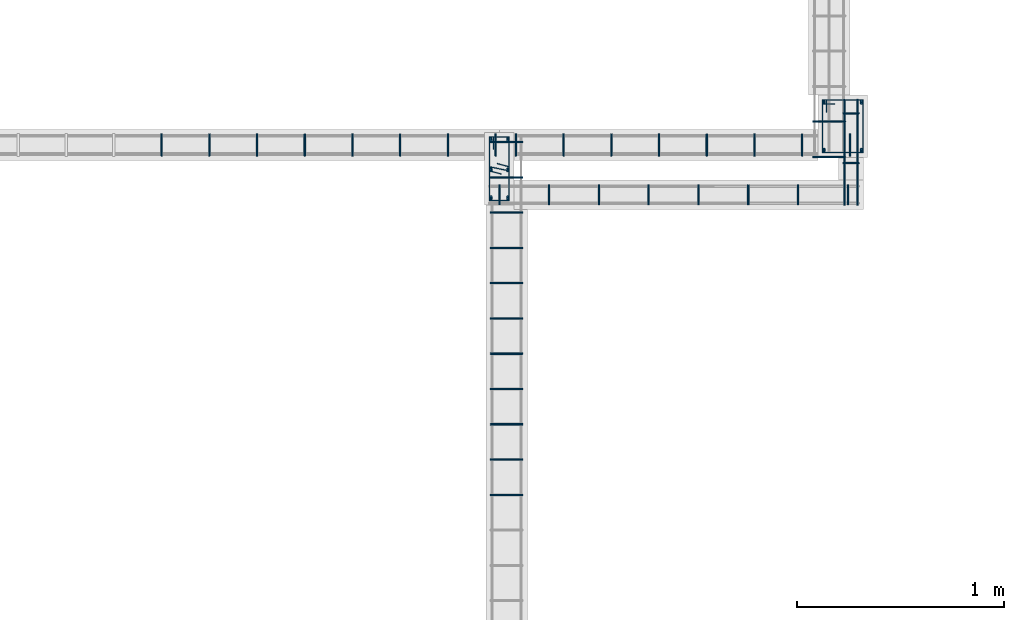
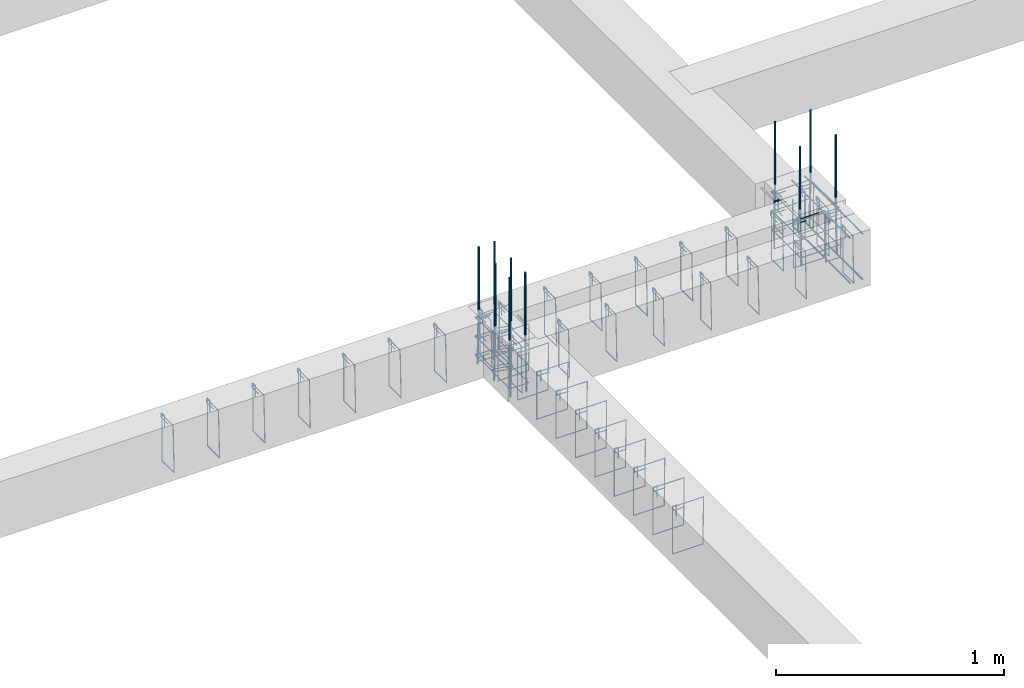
# One storey, part 83 of 150: 62 reinforcing bars.
"""IFC4 building model written with IfcOpenShell, lengths in centimetres."""

from ifc_helpers import new_model, entity, si_unit, derived_unit, frame, origin_with_axes, place, context, project, spatial, source, transform, mapped, element, save


model = new_model("IFC4")

# Units and contexts
model_context = context("Model", 3, precision=1e-05, world=origin_with_axes(), identifier="Body")
ifc_project = project(units=[si_unit("LENGTHUNIT", "METRE", prefix="CENTI"), si_unit("VOLUMEUNIT", "CUBIC_METRE"), si_unit("AREAUNIT", "SQUARE_METRE"), si_unit("POWERUNIT", "WATT"), si_unit("LUMINOUSFLUXUNIT", "LUMEN"), si_unit("ELECTRICCURRENTUNIT", "AMPERE"), si_unit("PRESSUREUNIT", "PASCAL", prefix="KILO"), si_unit("MASSUNIT", "GRAM", prefix="KILO"), si_unit("PLANEANGLEUNIT", "RADIAN"), derived_unit("VOLUMETRICFLOWRATEUNIT", [(si_unit("LENGTHUNIT", "METRE"), 3), (si_unit("TIMEUNIT", "SECOND"), -1)])], contexts=[model_context])

# Site, building, storey
site_placement = place(None, frame((-4000.0, 0.0, 0.0), z_axis=(0.0, 0.0, 1.0), x_axis=(1.0, 0.0, 0.0)))
site = spatial("IfcSite", under=ifc_project, at=site_placement, Name="PADRÃO")
building_placement = place(site_placement, frame((0.0, 0.0, -14.0)))
building = spatial("IfcBuilding", under=site, at=building_placement, Name="CRECHE PRÉ-ESCOLA TIPO 2")
placement = place(building_placement, origin_with_axes())
storey_placement = place(placement, frame((0.0, 0.0, 30.0), z_axis=(0.0, 0.0, 1.0), x_axis=(1.0, 0.0, 0.0)))
storey = spatial("IfcBuildingStorey", under=building, at=storey_placement, Name="VIGA BALDRAME", CompositionType="ELEMENT", Elevation=16.0)

# Reinforcing bars
shared_shape_1 = source(origin_with_axes(), model_context, "Body", "AdvancedSweptSolid", [
    entity("IfcSweptDiskSolid", entity("IfcCompositeCurve", [entity("IfcCompositeCurveSegment", "CONTINUOUS", True, entity("IfcPolyline", [entity("IfcCartesianPoint", [4.25, 21.75, 0.0]), entity("IfcCartesianPoint", [4.25, 27.75, 0.0])])), entity("IfcCompositeCurveSegment", "CONTINUOUS", True, entity("IfcPolyline", [entity("IfcCartesianPoint", [4.25, 27.75, 0.0]), entity("IfcCartesianPoint", [2.25, 27.75, 0.0])])), entity("IfcCompositeCurveSegment", "CONTINUOUS", True, entity("IfcPolyline", [entity("IfcCartesianPoint", [2.25, 27.75, 0.0]), entity("IfcCartesianPoint", [2.25, 2.25, 0.0])])), entity("IfcCompositeCurveSegment", "CONTINUOUS", True, entity("IfcPolyline", [entity("IfcCartesianPoint", [2.25, 2.25, 0.0]), entity("IfcCartesianPoint", [21.75, 2.25, 0.0])])), entity("IfcCompositeCurveSegment", "CONTINUOUS", True, entity("IfcPolyline", [entity("IfcCartesianPoint", [21.75, 2.25, 0.0]), entity("IfcCartesianPoint", [21.75, 27.75, -0.5])])), entity("IfcCompositeCurveSegment", "CONTINUOUS", True, entity("IfcPolyline", [entity("IfcCartesianPoint", [21.75, 27.75, -0.5]), entity("IfcCartesianPoint", [2.25, 27.75, -0.5])])), entity("IfcCompositeCurveSegment", "CONTINUOUS", True, entity("IfcPolyline", [entity("IfcCartesianPoint", [2.25, 27.75, -0.5]), entity("IfcCartesianPoint", [2.25, 25.75, -0.5])])), entity("IfcCompositeCurveSegment", "CONTINUOUS", True, entity("IfcPolyline", [entity("IfcCartesianPoint", [2.25, 25.75, -0.5]), entity("IfcCartesianPoint", [8.25, 25.75, -0.5])]))], False), 0.25),
])
for number, where, z_axis, x_axis, name in (
    (1, (3133.02, 2571.52, -25.0), (0.0, 0.0, 1.0), (1.0, 0.0, 0.0), "P74 - Estribo"),
    (2, (3133.02, 2571.52, -15.0), (0.0, 0.0, 1.0), (1.0, 0.0, 0.0), "P74 - Estribo"),
    (3, (3133.02, 2571.52, -5.0), (0.0, 0.0, 1.0), (1.0, 0.0, 0.0), "P74 - Estribo"),
):
    element("IfcReinforcingBar", number, at=place(storey_placement, frame(where, z_axis=z_axis, x_axis=x_axis)), inside=storey, Name=name, BarLength=0.0, CrossSectionArea=1.9634954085e-05, NominalDiameter=0.5, PredefinedType="MAIN", context=model_context, shape_type="MappedRepresentation", body=[
        mapped(shared_shape_1, transform((0.0, 0.0, 0.0), scale=1.0)),
    ])
shared_shape_2 = source(origin_with_axes(), model_context, "Body", "AdvancedSweptSolid", [
    entity("IfcSweptDiskSolid", entity("IfcCompositeCurve", [entity("IfcCompositeCurveSegment", "CONTINUOUS", True, entity("IfcPolyline", [entity("IfcCartesianPoint", [4.25, 26.75, 0.0]), entity("IfcCartesianPoint", [4.25, 32.75, 0.0])])), entity("IfcCompositeCurveSegment", "CONTINUOUS", True, entity("IfcPolyline", [entity("IfcCartesianPoint", [4.25, 32.75, 0.0]), entity("IfcCartesianPoint", [2.25, 32.75, 0.0])])), entity("IfcCompositeCurveSegment", "CONTINUOUS", True, entity("IfcPolyline", [entity("IfcCartesianPoint", [2.25, 32.75, 0.0]), entity("IfcCartesianPoint", [2.25, 2.25, 0.0])])), entity("IfcCompositeCurveSegment", "CONTINUOUS", True, entity("IfcPolyline", [entity("IfcCartesianPoint", [2.25, 2.25, 0.0]), entity("IfcCartesianPoint", [11.75, 2.25, 0.0])])), entity("IfcCompositeCurveSegment", "CONTINUOUS", True, entity("IfcPolyline", [entity("IfcCartesianPoint", [11.75, 2.25, 0.0]), entity("IfcCartesianPoint", [11.75, 32.75, -0.5])])), entity("IfcCompositeCurveSegment", "CONTINUOUS", True, entity("IfcPolyline", [entity("IfcCartesianPoint", [11.75, 32.75, -0.5]), entity("IfcCartesianPoint", [2.25, 32.75, -0.5])])), entity("IfcCompositeCurveSegment", "CONTINUOUS", True, entity("IfcPolyline", [entity("IfcCartesianPoint", [2.25, 32.75, -0.5]), entity("IfcCartesianPoint", [2.25, 30.75, -0.5])])), entity("IfcCompositeCurveSegment", "CONTINUOUS", True, entity("IfcPolyline", [entity("IfcCartesianPoint", [2.25, 30.75, -0.5]), entity("IfcCartesianPoint", [8.25, 30.75, -0.5])]))], False), 0.25),
])
for number, where, z_axis, x_axis, name in (
    (4, (2972.5, 2548.52, -25.0), (0.0, 0.0, 1.0), (1.0, 0.0, 0.0), "P73 - Estribo"),
    (5, (2972.5, 2548.52, -5.0), (0.0, 0.0, 1.0), (1.0, 0.0, 0.0), "P73 - Estribo"),
    (6, (2972.5, 2548.52, -15.0), (0.0, 0.0, 1.0), (1.0, 0.0, 0.0), "P73 - Estribo"),
):
    element("IfcReinforcingBar", number, at=place(storey_placement, frame(where, z_axis=z_axis, x_axis=x_axis)), inside=storey, Name=name, BarLength=0.0, CrossSectionArea=1.9634954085e-05, NominalDiameter=0.5, PredefinedType="MAIN", context=model_context, shape_type="MappedRepresentation", body=[
        mapped(shared_shape_2, transform((0.0, 0.0, 0.0), scale=1.0)),
    ])
shared_shape_3 = source(origin_with_axes(), model_context, "Body", "AdvancedSweptSolid", [
    entity("IfcSweptDiskSolid", entity("IfcCompositeCurve", [entity("IfcCompositeCurveSegment", "CONTINUOUS", True, entity("IfcPolyline", [entity("IfcCartesianPoint", [5.8862791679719, 20.0449050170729, 0.0]), entity("IfcCartesianPoint", [11.75, 18.5, 0.0])])), entity("IfcCompositeCurveSegment", "CONTINUOUS", True, entity("IfcPolyline", [entity("IfcCartesianPoint", [11.75, 18.5, 0.0]), entity("IfcCartesianPoint", [11.75, 16.5, 0.0])])), entity("IfcCompositeCurveSegment", "CONTINUOUS", True, entity("IfcPolyline", [entity("IfcCartesianPoint", [11.75, 16.5, 0.0]), entity("IfcCartesianPoint", [2.25, 18.5, 0.0])])), entity("IfcCompositeCurveSegment", "CONTINUOUS", True, entity("IfcPolyline", [entity("IfcCartesianPoint", [2.25, 18.5, 0.0]), entity("IfcCartesianPoint", [2.25, 16.5, 0.0])])), entity("IfcCompositeCurveSegment", "CONTINUOUS", True, entity("IfcPolyline", [entity("IfcCartesianPoint", [2.25, 16.5, 0.0]), entity("IfcCartesianPoint", [8.11372083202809, 14.9550949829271, 0.0])]))], False), 0.25),
])
for number, where, z_axis, x_axis, name in (
    (7, (2972.5, 2548.52, -14.5), (0.0, 0.0, 1.0), (1.0, 0.0, 0.0), "P73 - Grampo"),
    (8, (2972.5, 2548.52, -4.5), (0.0, 0.0, 1.0), (1.0, 0.0, 0.0), "P73 - Grampo"),
    (9, (2972.5, 2548.52, -24.5), (0.0, 0.0, 1.0), (1.0, 0.0, 0.0), "P73 - Grampo"),
):
    element("IfcReinforcingBar", number, at=place(storey_placement, frame(where, z_axis=z_axis, x_axis=x_axis)), inside=storey, Name=name, BarLength=0.0, CrossSectionArea=1.9634954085e-05, NominalDiameter=0.5, PredefinedType="MAIN", context=model_context, shape_type="MappedRepresentation", body=[
        mapped(shared_shape_3, transform((0.0, 0.0, 0.0), scale=1.0)),
    ])
shared_shape_4 = source(origin_with_axes(), model_context, "Body", "AdvancedSweptSolid", [
    entity("IfcSweptDiskSolid", entity("IfcCompositeCurve", [entity("IfcCompositeCurveSegment", "CONTINUOUS", True, entity("IfcPolyline", [entity("IfcCartesianPoint", [2.0, -6.0, 0.0]), entity("IfcCartesianPoint", [2.0, 0.0, 0.0])])), entity("IfcCompositeCurveSegment", "CONTINUOUS", True, entity("IfcPolyline", [entity("IfcCartesianPoint", [2.0, 0.0, 0.0]), entity("IfcCartesianPoint", [0.0, 0.0, 0.0])])), entity("IfcCompositeCurveSegment", "CONTINUOUS", True, entity("IfcPolyline", [entity("IfcCartesianPoint", [0.0, 0.0, 0.0]), entity("IfcCartesianPoint", [0.0, -25.5, 0.0])])), entity("IfcCompositeCurveSegment", "CONTINUOUS", True, entity("IfcPolyline", [entity("IfcCartesianPoint", [0.0, -25.5, 0.0]), entity("IfcCartesianPoint", [10.5, -25.5, 0.0])])), entity("IfcCompositeCurveSegment", "CONTINUOUS", True, entity("IfcPolyline", [entity("IfcCartesianPoint", [10.5, -25.5, 0.0]), entity("IfcCartesianPoint", [10.5, 0.0, 0.5])])), entity("IfcCompositeCurveSegment", "CONTINUOUS", True, entity("IfcPolyline", [entity("IfcCartesianPoint", [10.5, 0.0, 0.5]), entity("IfcCartesianPoint", [0.0, 0.0, 0.5])])), entity("IfcCompositeCurveSegment", "CONTINUOUS", True, entity("IfcPolyline", [entity("IfcCartesianPoint", [0.0, 0.0, 0.5]), entity("IfcCartesianPoint", [0.0, -2.0, 0.5])])), entity("IfcCompositeCurveSegment", "CONTINUOUS", True, entity("IfcPolyline", [entity("IfcCartesianPoint", [0.0, -2.0, 0.5]), entity("IfcCartesianPoint", [6.0, -2.0, 0.5])]))], False), 0.25),
])
for number, where, z_axis, x_axis, name in (
    (10, (2978.0, 2582.77, -2.25), (-1.0, 0.0, 0.0), (0.0, -1.0, 0.0), "V122 - Estribo"),
    (11, (2955.0, 2582.77, -2.25), (-1.0, 0.0, 0.0), (0.0, -1.0, 0.0), "V122 - Estribo"),
    (12, (2932.0, 2582.77, -2.25), (-1.0, 0.0, 0.0), (0.0, -1.0, 0.0), "V122 - Estribo"),
    (13, (2909.0, 2582.77, -2.25), (-1.0, 0.0, 0.0), (0.0, -1.0, 0.0), "V122 - Estribo"),
    (14, (2886.0, 2582.77, -2.25), (-1.0, 0.0, 0.0), (0.0, -1.0, 0.0), "V122 - Estribo"),
    (15, (2863.0, 2582.77, -2.25), (-1.0, 0.0, 0.0), (0.0, -1.0, 0.0), "V122 - Estribo"),
    (16, (2840.0, 2582.77, -2.25), (-1.0, 0.0, 0.0), (0.0, -1.0, 0.0), "V122 - Estribo"),
    (17, (2817.0, 2582.77, -2.25), (-1.0, 0.0, 0.0), (0.0, -1.0, 0.0), "V122 - Estribo"),
):
    element("IfcReinforcingBar", number, at=place(storey_placement, frame(where, z_axis=z_axis, x_axis=x_axis)), inside=storey, Name=name, BarLength=0.0, CrossSectionArea=1.9634954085e-05, NominalDiameter=0.5, PredefinedType="MAIN", context=model_context, shape_type="MappedRepresentation", body=[
        mapped(shared_shape_4, transform((0.0, 0.0, 0.0), scale=1.0)),
    ])
shared_shape_5 = source(origin_with_axes(), model_context, "Body", "AdvancedSweptSolid", [
    entity("IfcSweptDiskSolid", entity("IfcCompositeCurve", [entity("IfcCompositeCurveSegment", "CONTINUOUS", True, entity("IfcPolyline", [entity("IfcCartesianPoint", [2.0, -6.0, 0.0]), entity("IfcCartesianPoint", [2.0, 0.0, 0.0])])), entity("IfcCompositeCurveSegment", "CONTINUOUS", True, entity("IfcPolyline", [entity("IfcCartesianPoint", [2.0, 0.0, 0.0]), entity("IfcCartesianPoint", [0.0, 0.0, 0.0])])), entity("IfcCompositeCurveSegment", "CONTINUOUS", True, entity("IfcPolyline", [entity("IfcCartesianPoint", [0.0, 0.0, 0.0]), entity("IfcCartesianPoint", [0.0, -25.5, 0.0])])), entity("IfcCompositeCurveSegment", "CONTINUOUS", True, entity("IfcPolyline", [entity("IfcCartesianPoint", [0.0, -25.5, 0.0]), entity("IfcCartesianPoint", [10.5, -25.5, 0.0])])), entity("IfcCompositeCurveSegment", "CONTINUOUS", True, entity("IfcPolyline", [entity("IfcCartesianPoint", [10.5, -25.5, 0.0]), entity("IfcCartesianPoint", [10.5, 0.0, 0.5])])), entity("IfcCompositeCurveSegment", "CONTINUOUS", True, entity("IfcPolyline", [entity("IfcCartesianPoint", [10.5, 0.0, 0.5]), entity("IfcCartesianPoint", [0.0, 0.0, 0.5])])), entity("IfcCompositeCurveSegment", "CONTINUOUS", True, entity("IfcPolyline", [entity("IfcCartesianPoint", [0.0, 0.0, 0.5]), entity("IfcCartesianPoint", [0.0, -2.0, 0.5])])), entity("IfcCompositeCurveSegment", "CONTINUOUS", True, entity("IfcPolyline", [entity("IfcCartesianPoint", [0.0, -2.0, 0.5]), entity("IfcCartesianPoint", [6.0, -2.0, 0.5])]))], False), 0.25),
])
for number, where, z_axis, x_axis, name in (
    (18, (3148.76, 2582.77, -2.25), (-1.0, 0.0, 0.0), (0.0, -1.0, 0.0), "V122 - Estribo"),
    (19, (3125.76, 2582.77, -2.25), (-1.0, 0.0, 0.0), (0.0, -1.0, 0.0), "V122 - Estribo"),
    (20, (3102.76, 2582.77, -2.25), (-1.0, 0.0, 0.0), (0.0, -1.0, 0.0), "V122 - Estribo"),
    (21, (3079.76, 2582.77, -2.25), (-1.0, 0.0, 0.0), (0.0, -1.0, 0.0), "V122 - Estribo"),
    (22, (3056.76, 2582.77, -2.25), (-1.0, 0.0, 0.0), (0.0, -1.0, 0.0), "V122 - Estribo"),
    (23, (3033.76, 2582.77, -2.25), (-1.0, 0.0, 0.0), (0.0, -1.0, 0.0), "V122 - Estribo"),
    (24, (3010.76, 2582.77, -2.25), (-1.0, 0.0, 0.0), (0.0, -1.0, 0.0), "V122 - Estribo"),
    (25, (2987.76, 2582.77, -2.25), (-1.0, 0.0, 0.0), (0.0, -1.0, 0.0), "V122 - Estribo"),
):
    element("IfcReinforcingBar", number, at=place(storey_placement, frame(where, z_axis=z_axis, x_axis=x_axis)), inside=storey, Name=name, BarLength=0.0, CrossSectionArea=1.9634954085e-05, NominalDiameter=0.5, PredefinedType="MAIN", context=model_context, shape_type="MappedRepresentation", body=[
        mapped(shared_shape_5, transform((0.0, 0.0, 0.0), scale=1.0)),
    ])
shared_shape_6 = source(origin_with_axes(), model_context, "Body", "AdvancedSweptSolid", [
    entity("IfcSweptDiskSolid", entity("IfcCompositeCurve", [entity("IfcCompositeCurveSegment", "CONTINUOUS", True, entity("IfcPolyline", [entity("IfcCartesianPoint", [2.0, -6.0, 0.0]), entity("IfcCartesianPoint", [2.0, 0.0, 0.0])])), entity("IfcCompositeCurveSegment", "CONTINUOUS", True, entity("IfcPolyline", [entity("IfcCartesianPoint", [2.0, 0.0, 0.0]), entity("IfcCartesianPoint", [0.0, 0.0, 0.0])])), entity("IfcCompositeCurveSegment", "CONTINUOUS", True, entity("IfcPolyline", [entity("IfcCartesianPoint", [0.0, 0.0, 0.0]), entity("IfcCartesianPoint", [0.0, -25.5, 0.0])])), entity("IfcCompositeCurveSegment", "CONTINUOUS", True, entity("IfcPolyline", [entity("IfcCartesianPoint", [0.0, -25.5, 0.0]), entity("IfcCartesianPoint", [15.5, -25.5, 0.0])])), entity("IfcCompositeCurveSegment", "CONTINUOUS", True, entity("IfcPolyline", [entity("IfcCartesianPoint", [15.5, -25.5, 0.0]), entity("IfcCartesianPoint", [15.5, 0.0, 0.5])])), entity("IfcCompositeCurveSegment", "CONTINUOUS", True, entity("IfcPolyline", [entity("IfcCartesianPoint", [15.5, 0.0, 0.5]), entity("IfcCartesianPoint", [0.0, 0.0, 0.5])])), entity("IfcCompositeCurveSegment", "CONTINUOUS", True, entity("IfcPolyline", [entity("IfcCartesianPoint", [0.0, 0.0, 0.5]), entity("IfcCartesianPoint", [0.0, -2.0, 0.5])])), entity("IfcCompositeCurveSegment", "CONTINUOUS", True, entity("IfcPolyline", [entity("IfcCartesianPoint", [0.0, -2.0, 0.5]), entity("IfcCartesianPoint", [6.0, -2.0, 0.5])]))], False), 0.25),
])
for number, where, z_axis, x_axis, name in (
    (26, (2975.25, 2409.145, -2.25), (0.0, -1.0, 0.0), (1.0, 0.0, 0.0), "V212 - Estribo"),
    (27, (2975.25, 2426.145, -2.25), (0.0, -1.0, 0.0), (1.0, 0.0, 0.0), "V212 - Estribo"),
    (28, (2975.25, 2443.145, -2.25), (0.0, -1.0, 0.0), (1.0, 0.0, 0.0), "V212 - Estribo"),
    (29, (2975.25, 2460.145, -2.25), (0.0, -1.0, 0.0), (1.0, 0.0, 0.0), "V212 - Estribo"),
    (30, (2975.25, 2477.145, -2.25), (0.0, -1.0, 0.0), (1.0, 0.0, 0.0), "V212 - Estribo"),
    (31, (2975.25, 2494.145, -2.25), (0.0, -1.0, 0.0), (1.0, 0.0, 0.0), "V212 - Estribo"),
    (32, (2975.25, 2511.145, -2.25), (0.0, -1.0, 0.0), (1.0, 0.0, 0.0), "V212 - Estribo"),
    (33, (2975.25, 2528.145, -2.25), (0.0, -1.0, 0.0), (1.0, 0.0, 0.0), "V212 - Estribo"),
    (34, (2975.25, 2545.145, -2.25), (0.0, -1.0, 0.0), (1.0, 0.0, 0.0), "V212 - Estribo"),
    (35, (2975.25, 2562.145, -2.25), (0.0, -1.0, 0.0), (1.0, 0.0, 0.0), "V212 - Estribo"),
    (36, (2975.25, 2579.145, -2.25), (0.0, -1.0, 0.0), (1.0, 0.0, 0.0), "V212 - Estribo"),
):
    element("IfcReinforcingBar", number, at=place(storey_placement, frame(where, z_axis=z_axis, x_axis=x_axis)), inside=storey, Name=name, BarLength=0.0, CrossSectionArea=1.9634954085e-05, NominalDiameter=0.5, PredefinedType="MAIN", context=model_context, shape_type="MappedRepresentation", body=[
        mapped(shared_shape_6, transform((0.0, 0.0, 0.0), scale=1.0)),
    ])
shared_shape_7 = source(origin_with_axes(), model_context, "Body", "AdvancedSweptSolid", [
    entity("IfcSweptDiskSolid", entity("IfcCompositeCurve", [entity("IfcCompositeCurveSegment", "CONTINUOUS", True, entity("IfcPolyline", [entity("IfcCartesianPoint", [2.0, -6.0, 0.0]), entity("IfcCartesianPoint", [2.0, 0.0, 0.0])])), entity("IfcCompositeCurveSegment", "CONTINUOUS", True, entity("IfcPolyline", [entity("IfcCartesianPoint", [2.0, 0.0, 0.0]), entity("IfcCartesianPoint", [0.0, 0.0, 0.0])])), entity("IfcCompositeCurveSegment", "CONTINUOUS", True, entity("IfcPolyline", [entity("IfcCartesianPoint", [0.0, 0.0, 0.0]), entity("IfcCartesianPoint", [0.0, -25.5, 0.0])])), entity("IfcCompositeCurveSegment", "CONTINUOUS", True, entity("IfcPolyline", [entity("IfcCartesianPoint", [0.0, -25.5, 0.0]), entity("IfcCartesianPoint", [15.5, -25.5, 0.0])])), entity("IfcCompositeCurveSegment", "CONTINUOUS", True, entity("IfcPolyline", [entity("IfcCartesianPoint", [15.5, -25.5, 0.0]), entity("IfcCartesianPoint", [15.5, 0.0, 0.5])])), entity("IfcCompositeCurveSegment", "CONTINUOUS", True, entity("IfcPolyline", [entity("IfcCartesianPoint", [15.5, 0.0, 0.5]), entity("IfcCartesianPoint", [0.0, 0.0, 0.5])])), entity("IfcCompositeCurveSegment", "CONTINUOUS", True, entity("IfcPolyline", [entity("IfcCartesianPoint", [0.0, 0.0, 0.5]), entity("IfcCartesianPoint", [0.0, -2.0, 0.5])])), entity("IfcCompositeCurveSegment", "CONTINUOUS", True, entity("IfcPolyline", [entity("IfcCartesianPoint", [0.0, -2.0, 0.5]), entity("IfcCartesianPoint", [6.0, -2.0, 0.5])]))], False), 0.25),
])
for number, where, z_axis, x_axis, name in (
    (37, (3130.75, 2572.02, -2.25), (0.0, -1.0, 0.0), (1.0, 0.0, 0.0), "V219 - Estribo"),
    (38, (3130.75, 2589.02, -2.25), (0.0, -1.0, 0.0), (1.0, 0.0, 0.0), "V219 - Estribo"),
):
    element("IfcReinforcingBar", number, at=place(storey_placement, frame(where, z_axis=z_axis, x_axis=x_axis)), inside=storey, Name=name, BarLength=0.0, CrossSectionArea=1.9634954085e-05, NominalDiameter=0.5, PredefinedType="MAIN", context=model_context, shape_type="MappedRepresentation", body=[
        mapped(shared_shape_7, transform((0.0, 0.0, 0.0), scale=1.0)),
    ])
shared_shape_8 = source(origin_with_axes(), model_context, "Body", "AdvancedSweptSolid", [
    entity("IfcSweptDiskSolid", entity("IfcCompositeCurve", [entity("IfcCompositeCurveSegment", "CONTINUOUS", True, entity("IfcPolyline", [entity("IfcCartesianPoint", [2.0, -6.0, 0.0]), entity("IfcCartesianPoint", [2.0, 0.0, 0.0])])), entity("IfcCompositeCurveSegment", "CONTINUOUS", True, entity("IfcPolyline", [entity("IfcCartesianPoint", [2.0, 0.0, 0.0]), entity("IfcCartesianPoint", [0.0, 0.0, 0.0])])), entity("IfcCompositeCurveSegment", "CONTINUOUS", True, entity("IfcPolyline", [entity("IfcCartesianPoint", [0.0, 0.0, 0.0]), entity("IfcCartesianPoint", [0.0, -25.5, 0.0])])), entity("IfcCompositeCurveSegment", "CONTINUOUS", True, entity("IfcPolyline", [entity("IfcCartesianPoint", [0.0, -25.5, 0.0]), entity("IfcCartesianPoint", [7.5, -25.5, 0.0])])), entity("IfcCompositeCurveSegment", "CONTINUOUS", True, entity("IfcPolyline", [entity("IfcCartesianPoint", [7.5, -25.5, 0.0]), entity("IfcCartesianPoint", [7.5, 0.0, 0.5])])), entity("IfcCompositeCurveSegment", "CONTINUOUS", True, entity("IfcPolyline", [entity("IfcCartesianPoint", [7.5, 0.0, 0.5]), entity("IfcCartesianPoint", [0.0, 0.0, 0.5])])), entity("IfcCompositeCurveSegment", "CONTINUOUS", True, entity("IfcPolyline", [entity("IfcCartesianPoint", [0.0, 0.0, 0.5]), entity("IfcCartesianPoint", [0.0, -2.0, 0.5])])), entity("IfcCompositeCurveSegment", "CONTINUOUS", True, entity("IfcPolyline", [entity("IfcCartesianPoint", [0.0, -2.0, 0.5]), entity("IfcCartesianPoint", [6.0, -2.0, 0.5])]))], False), 0.25),
])
for number, where, z_axis, x_axis, name in (
    (39, (3145.27, 2569.02, -2.25), (0.0, -1.0, 0.0), (1.0, 0.0, 0.0), "V218 - Estribo"),
    (40, (3145.27, 2593.02, -2.25), (0.0, -1.0, 0.0), (1.0, 0.0, 0.0), "V218 - Estribo"),
):
    element("IfcReinforcingBar", number, at=place(storey_placement, frame(where, z_axis=z_axis, x_axis=x_axis)), inside=storey, Name=name, BarLength=0.0, CrossSectionArea=1.9634954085e-05, NominalDiameter=0.5, PredefinedType="MAIN", context=model_context, shape_type="MappedRepresentation", body=[
        mapped(shared_shape_8, transform((0.0, 0.0, 0.0), scale=1.0)),
    ])
shared_shape_9 = source(origin_with_axes(), model_context, "Body", "AdvancedSweptSolid", [
    entity("IfcSweptDiskSolid", entity("IfcCompositeCurve", [entity("IfcCompositeCurveSegment", "CONTINUOUS", True, entity("IfcPolyline", [entity("IfcCartesianPoint", [2.0, -6.0, 0.0]), entity("IfcCartesianPoint", [2.0, 0.0, 0.0])])), entity("IfcCompositeCurveSegment", "CONTINUOUS", True, entity("IfcPolyline", [entity("IfcCartesianPoint", [2.0, 0.0, 0.0]), entity("IfcCartesianPoint", [0.0, 0.0, 0.0])])), entity("IfcCompositeCurveSegment", "CONTINUOUS", True, entity("IfcPolyline", [entity("IfcCartesianPoint", [0.0, 0.0, 0.0]), entity("IfcCartesianPoint", [0.0, -25.5, 0.0])])), entity("IfcCompositeCurveSegment", "CONTINUOUS", True, entity("IfcPolyline", [entity("IfcCartesianPoint", [0.0, -25.5, 0.0]), entity("IfcCartesianPoint", [9.5, -25.5, 0.0])])), entity("IfcCompositeCurveSegment", "CONTINUOUS", True, entity("IfcPolyline", [entity("IfcCartesianPoint", [9.5, -25.5, 0.0]), entity("IfcCartesianPoint", [9.5, 0.0, 0.5])])), entity("IfcCompositeCurveSegment", "CONTINUOUS", True, entity("IfcPolyline", [entity("IfcCartesianPoint", [9.5, 0.0, 0.5]), entity("IfcCartesianPoint", [0.0, 0.0, 0.5])])), entity("IfcCompositeCurveSegment", "CONTINUOUS", True, entity("IfcPolyline", [entity("IfcCartesianPoint", [0.0, 0.0, 0.5]), entity("IfcCartesianPoint", [0.0, -2.0, 0.5])])), entity("IfcCompositeCurveSegment", "CONTINUOUS", True, entity("IfcPolyline", [entity("IfcCartesianPoint", [0.0, -2.0, 0.5]), entity("IfcCartesianPoint", [6.0, -2.0, 0.5])]))], False), 0.25),
])
for number, where, z_axis, x_axis, name in (
    (41, (3123.76, 2558.27, -2.25), (-1.0, 0.0, 0.0), (0.0, -1.0, 0.0), "V123 - Estribo"),
    (42, (3147.76, 2558.27, -2.25), (-1.0, 0.0, 0.0), (0.0, -1.0, 0.0), "V123 - Estribo"),
    (43, (2979.76, 2558.27, -2.25), (-1.0, 0.0, 0.0), (0.0, -1.0, 0.0), "V123 - Estribo"),
    (44, (3003.76, 2558.27, -2.25), (-1.0, 0.0, 0.0), (0.0, -1.0, 0.0), "V123 - Estribo"),
    (45, (3027.76, 2558.27, -2.25), (-1.0, 0.0, 0.0), (0.0, -1.0, 0.0), "V123 - Estribo"),
    (46, (3051.76, 2558.27, -2.25), (-1.0, 0.0, 0.0), (0.0, -1.0, 0.0), "V123 - Estribo"),
    (47, (3075.76, 2558.27, -2.25), (-1.0, 0.0, 0.0), (0.0, -1.0, 0.0), "V123 - Estribo"),
    (48, (3099.76, 2558.27, -2.25), (-1.0, 0.0, 0.0), (0.0, -1.0, 0.0), "V123 - Estribo"),
):
    element("IfcReinforcingBar", number, at=place(storey_placement, frame(where, z_axis=z_axis, x_axis=x_axis)), inside=storey, Name=name, BarLength=0.0, CrossSectionArea=1.9634954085e-05, NominalDiameter=0.5, PredefinedType="MAIN", context=model_context, shape_type="MappedRepresentation", body=[
        mapped(shared_shape_9, transform((0.0, 0.0, 0.0), scale=1.0)),
    ])
for number, where, z_axis, x_axis, name in (
    (49, (2975.5, 2565.51986122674, 33.3573001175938), (0.0, 0.0, 1.0), (1.0, 0.0, 0.0), "P73 - Longitudinal"),
    (50, (2983.5, 2565.51986122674, 33.3573001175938), (0.0, 0.0, 1.0), (1.0, 0.0, 0.0), "P73 - Longitudinal"),
):
    element("IfcReinforcingBar", number, at=place(storey_placement, frame(where, z_axis=z_axis, x_axis=x_axis)), inside=storey, Name=name, BarLength=0.0, CrossSectionArea=7.853981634e-05, NominalDiameter=1.0, PredefinedType="MAIN", context=model_context, shape_type="AdvancedSweptSolid", body=[
        entity("IfcSweptDiskSolid", entity("IfcCompositeCurve", [entity("IfcCompositeCurveSegment", "CONTINUOUS", True, entity("IfcPolyline", [entity("IfcCartesianPoint", [0.0, 0.500138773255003, -63.3573001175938]), entity("IfcCartesianPoint", [0.0, -0.499861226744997, -33.3573001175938])])), entity("IfcCompositeCurveSegment", "CONTINUOUS", True, entity("IfcPolyline", [entity("IfcCartesianPoint", [0.0, -0.499861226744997, -33.3573001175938]), entity("IfcCartesianPoint", [0.0, -0.499861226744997, 0.0])]))], False), 0.5),
    ])
for number, where, z_axis, x_axis, name in (
    (51, (2975.5, 2552.02013877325, 33.3573001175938), (0.0, 0.0, 1.0), (1.0, 0.0, 0.0), "P73 - Longitudinal"),
    (52, (2983.5, 2552.02013877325, 33.3573001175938), (0.0, 0.0, 1.0), (1.0, 0.0, 0.0), "P73 - Longitudinal"),
):
    element("IfcReinforcingBar", number, at=place(storey_placement, frame(where, z_axis=z_axis, x_axis=x_axis)), inside=storey, Name=name, BarLength=0.0, CrossSectionArea=7.853981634e-05, NominalDiameter=1.0, PredefinedType="MAIN", context=model_context, shape_type="AdvancedSweptSolid", body=[
        entity("IfcSweptDiskSolid", entity("IfcCompositeCurve", [entity("IfcCompositeCurveSegment", "CONTINUOUS", True, entity("IfcPolyline", [entity("IfcCartesianPoint", [0.0, -0.500138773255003, -63.3573001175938]), entity("IfcCartesianPoint", [0.0, 0.499861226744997, -33.3573001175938])])), entity("IfcCompositeCurveSegment", "CONTINUOUS", True, entity("IfcPolyline", [entity("IfcCartesianPoint", [0.0, 0.499861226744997, -33.3573001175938]), entity("IfcCartesianPoint", [0.0, 0.499861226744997, 0.0])]))], False), 0.5),
    ])
for number, where, z_axis, x_axis, name in (
    (53, (2983.5, 2580.01986122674, 33.3573001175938), (0.0, 0.0, 1.0), (1.0, 0.0, 0.0), "P73 - Longitudinal"),
    (54, (2975.5, 2580.01986122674, 33.3573001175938), (0.0, 0.0, 1.0), (1.0, 0.0, 0.0), "P73 - Longitudinal"),
    (55, (3154.02, 2598.01986122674, 33.3573001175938), (0.0, 0.0, 1.0), (1.0, 0.0, 0.0), "P74 - Longitudinal"),
):
    element("IfcReinforcingBar", number, at=place(storey_placement, frame(where, z_axis=z_axis, x_axis=x_axis)), inside=storey, Name=name, BarLength=0.0, CrossSectionArea=7.853981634e-05, NominalDiameter=1.0, PredefinedType="MAIN", context=model_context, shape_type="AdvancedSweptSolid", body=[
        entity("IfcSweptDiskSolid", entity("IfcCompositeCurve", [entity("IfcCompositeCurveSegment", "CONTINUOUS", True, entity("IfcPolyline", [entity("IfcCartesianPoint", [0.0, 0.500138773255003, -63.3573001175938]), entity("IfcCartesianPoint", [0.0, -0.499861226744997, -33.3573001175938])])), entity("IfcCompositeCurveSegment", "CONTINUOUS", True, entity("IfcPolyline", [entity("IfcCartesianPoint", [0.0, -0.499861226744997, -33.3573001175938]), entity("IfcCartesianPoint", [0.0, -0.499861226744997, 0.0])]))], False), 0.5),
    ])
reinforcing_bar_1_placement = place(storey_placement, frame((3154.02, 2575.02013877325, 33.3573001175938), z_axis=(0.0, 0.0, 1.0), x_axis=(1.0, 0.0, 0.0)))
element("IfcReinforcingBar", 56, at=reinforcing_bar_1_placement, inside=storey, Name="P74 - Longitudinal", BarLength=0.0, CrossSectionArea=7.853981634e-05, NominalDiameter=1.0, PredefinedType="MAIN", context=model_context, shape_type="AdvancedSweptSolid", body=[
    entity("IfcSweptDiskSolid", entity("IfcCompositeCurve", [entity("IfcCompositeCurveSegment", "CONTINUOUS", True, entity("IfcPolyline", [entity("IfcCartesianPoint", [0.0, -0.500138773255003, -63.3573001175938]), entity("IfcCartesianPoint", [0.0, 0.499861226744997, -33.3573001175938])])), entity("IfcCompositeCurveSegment", "CONTINUOUS", True, entity("IfcPolyline", [entity("IfcCartesianPoint", [0.0, 0.499861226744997, -33.3573001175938]), entity("IfcCartesianPoint", [0.0, 0.499861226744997, 0.0])]))], False), 0.5),
])
reinforcing_bar_2_placement = place(storey_placement, frame((3136.02, 2598.01986122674, 33.3573001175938), z_axis=(0.0, 0.0, 1.0), x_axis=(1.0, 0.0, 0.0)))
element("IfcReinforcingBar", 57, at=reinforcing_bar_2_placement, inside=storey, Name="P74 - Longitudinal", BarLength=0.0, CrossSectionArea=7.853981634e-05, NominalDiameter=1.0, PredefinedType="MAIN", context=model_context, shape_type="AdvancedSweptSolid", body=[
    entity("IfcSweptDiskSolid", entity("IfcCompositeCurve", [entity("IfcCompositeCurveSegment", "CONTINUOUS", True, entity("IfcPolyline", [entity("IfcCartesianPoint", [0.0, 0.500138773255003, -63.3573001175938]), entity("IfcCartesianPoint", [0.0, -0.499861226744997, -33.3573001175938])])), entity("IfcCompositeCurveSegment", "CONTINUOUS", True, entity("IfcPolyline", [entity("IfcCartesianPoint", [0.0, -0.499861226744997, -33.3573001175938]), entity("IfcCartesianPoint", [0.0, -0.499861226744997, 0.0])]))], False), 0.5),
])
reinforcing_bar_3_placement = place(storey_placement, frame((3136.02, 2575.02013877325, 33.3573001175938), z_axis=(0.0, 0.0, 1.0), x_axis=(1.0, 0.0, 0.0)))
element("IfcReinforcingBar", 58, at=reinforcing_bar_3_placement, inside=storey, Name="P74 - Longitudinal", BarLength=0.0, CrossSectionArea=7.853981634e-05, NominalDiameter=1.0, PredefinedType="MAIN", context=model_context, shape_type="AdvancedSweptSolid", body=[
    entity("IfcSweptDiskSolid", entity("IfcCompositeCurve", [entity("IfcCompositeCurveSegment", "CONTINUOUS", True, entity("IfcPolyline", [entity("IfcCartesianPoint", [0.0, -0.500138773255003, -63.3573001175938]), entity("IfcCartesianPoint", [0.0, 0.499861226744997, -33.3573001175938])])), entity("IfcCompositeCurveSegment", "CONTINUOUS", True, entity("IfcPolyline", [entity("IfcCartesianPoint", [0.0, 0.499861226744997, -33.3573001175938]), entity("IfcCartesianPoint", [0.0, 0.499861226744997, 0.0])]))], False), 0.5),
])
for number, where, z_axis, x_axis, name in (
    (59, (3145.77, 2574.02, -2.5), (0.0, 0.0, 1.0), (1.0, 0.0, 0.0), "V218 - Longitudinal construtiva"),
    (60, (3152.27, 2574.02, -2.5), (0.0, 0.0, 1.0), (1.0, 0.0, 0.0), "V218 - Longitudinal construtiva"),
):
    element("IfcReinforcingBar", number, at=place(storey_placement, frame(where, z_axis=z_axis, x_axis=x_axis)), inside=storey, Name=name, BarLength=0.0, CrossSectionArea=1.9634954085e-05, NominalDiameter=0.5, PredefinedType="MAIN", context=model_context, shape_type="AdvancedSweptSolid", body=[
        entity("IfcSweptDiskSolid", entity("IfcCompositeCurve", [entity("IfcCompositeCurveSegment", "CONTINUOUS", True, entity("IfcPolyline", [entity("IfcCartesianPoint", [0.0, -25.5, -0.25]), entity("IfcCartesianPoint", [0.0, 25.5, -0.25])]))], False), 0.25),
    ])
for number, where, z_axis, x_axis, name in (
    (61, (3152.12, 2574.0218751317, -12.7657561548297), (0.0, 0.0, 1.0), (1.0, 0.0, 0.0), "V218 - Longitudinal inferior"),
    (62, (3145.92, 2574.0218751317, -12.7657561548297), (0.0, 0.0, 1.0), (1.0, 0.0, 0.0), "V218 - Longitudinal inferior"),
):
    element("IfcReinforcingBar", number, at=place(storey_placement, frame(where, z_axis=z_axis, x_axis=x_axis)), inside=storey, Name=name, BarLength=0.0, CrossSectionArea=5.0265482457e-05, NominalDiameter=0.8, PredefinedType="MAIN", context=model_context, shape_type="AdvancedSweptSolid", body=[
        entity("IfcSweptDiskSolid", entity("IfcCompositeCurve", [entity("IfcCompositeCurveSegment", "CONTINUOUS", True, entity("IfcPolyline", [entity("IfcCartesianPoint", [0.0, -25.5018751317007, -14.3342438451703]), entity("IfcCartesianPoint", [0.0, 25.0981248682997, -14.3342438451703])])), entity("IfcCompositeCurveSegment", "CONTINUOUS", True, entity("IfcPolyline", [entity("IfcCartesianPoint", [0.0, 25.0981248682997, -14.3342438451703]), entity("IfcCartesianPoint", [0.0, 25.0981248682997, 0.0])]))], False), 0.4),
    ])

save(model, "model.ifc")
